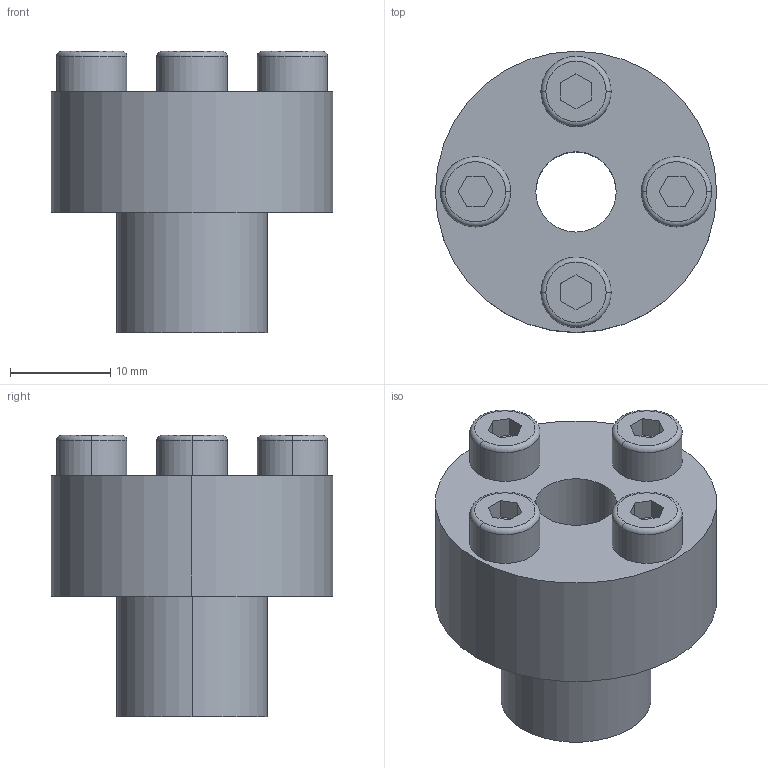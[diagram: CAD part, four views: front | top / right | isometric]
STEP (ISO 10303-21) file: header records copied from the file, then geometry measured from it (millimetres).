
FILE_DESCRIPTION (( 'STEP AP203' ), '1' );
FILE_NAME ('PL-C 8-15.STEP', '2021-10-22T08:24:04', ( '' ), ( '' ), 'SwSTEP 2.0', 'SolidWorks 2018', '' );
FILE_SCHEMA (( 'CONFIG_CONTROL_DESIGN' ));
Length unit declared in the file: millimetre
Products named in the file (1): PL-C 8-15
Bounding box: 28 x 28 x 28 mm (x, y, z)
Volume: 8835.1 mm3; surface area: 3768.6 mm2
Topology: 1 solids, 1 shells, 57 faces, 130 edges, 84 vertices
Faces by surface type: plane 35, cylinder 14, torus 8
Entity records: 1685 total; most frequent: DIRECTION 290, CARTESIAN_POINT 272, ORIENTED_EDGE 260, EDGE_CURVE 130, AXIS2_PLACEMENT_3D 102, VECTOR 86, LINE 86, VERTEX_POINT 84
